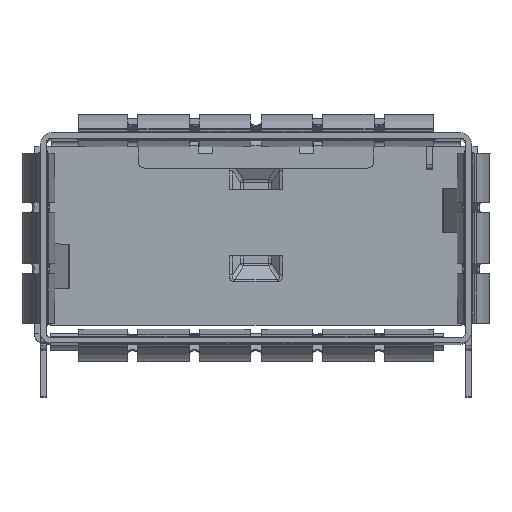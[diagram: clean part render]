
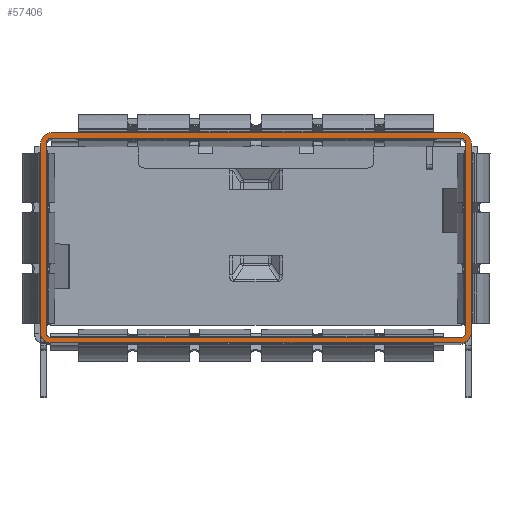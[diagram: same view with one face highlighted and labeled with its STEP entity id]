
A CAD part, top view. The second image highlights one B-rep face of the part: STEP entity #57406.
In plain terms, the highlighted planar face has unit normal (0, 0, 1).
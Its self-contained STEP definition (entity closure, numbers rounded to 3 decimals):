
#37 = AXIS2_PLACEMENT_3D ( 'NONE', #45351, #19337, #50804 ) ;
#287 = CARTESIAN_POINT ( 'NONE',  ( 9.125, -8.9, 48. ) ) ;
#1367 = AXIS2_PLACEMENT_3D ( 'NONE', #4854, #41297, #14080 ) ;
#1858 = CARTESIAN_POINT ( 'NONE',  ( 9.625, -8.9, 48. ) ) ;
#2196 = EDGE_CURVE ( 'NONE', #27542, #26078, #17969, .T. ) ;
#2359 = EDGE_CURVE ( 'NONE', #17183, #5559, #22906, .T. ) ;
#2428 = ORIENTED_EDGE ( 'NONE', *, *, #6236, .T. ) ;
#3853 = VERTEX_POINT ( 'NONE', #38428 ) ;
#4854 = CARTESIAN_POINT ( 'NONE',  ( 9.125, -0.5, 48. ) ) ;
#5559 = VERTEX_POINT ( 'NONE', #57170 ) ;
#6034 = VECTOR ( 'NONE', #27378, 1000. ) ;
#6236 = EDGE_CURVE ( 'NONE', #17183, #40401, #8928, .T. ) ;
#6918 = DIRECTION ( 'NONE',  ( 0., 1., 0. ) ) ;
#7238 = VECTOR ( 'NONE', #41199, 1000. ) ;
#8255 = CARTESIAN_POINT ( 'NONE',  ( -9.175, -9.15, 48. ) ) ;
#8294 = ORIENTED_EDGE ( 'NONE', *, *, #19710, .F. ) ;
#8928 = CIRCLE ( 'NONE', #46298, 0.45 ) ;
#9257 = VERTEX_POINT ( 'NONE', #56639 ) ;
#9402 = ORIENTED_EDGE ( 'NONE', *, *, #48870, .T. ) ;
#9570 = DIRECTION ( 'NONE',  ( 1., 0., 0. ) ) ;
#10160 = CARTESIAN_POINT ( 'NONE',  ( -9.625, -0.25, 48. ) ) ;
#10712 = VERTEX_POINT ( 'NONE', #15838 ) ;
#10721 = ORIENTED_EDGE ( 'NONE', *, *, #52177, .F. ) ;
#10976 = CARTESIAN_POINT ( 'NONE',  ( -9.375, -0.5, 48. ) ) ;
#11026 = FACE_OUTER_BOUND ( 'NONE', #44446, .T. ) ;
#11152 = VECTOR ( 'NONE', #51347, 1000. ) ;
#11313 = CARTESIAN_POINT ( 'NONE',  ( -9.625, 0., 48. ) ) ;
#11656 = CIRCLE ( 'NONE', #47904, 0.5 ) ;
#12084 = VECTOR ( 'NONE', #31171, 1000. ) ;
#12829 = ORIENTED_EDGE ( 'NONE', *, *, #49172, .T. ) ;
#13798 = CARTESIAN_POINT ( 'NONE',  ( -9.588, -9.13, 48. ) ) ;
#14080 = DIRECTION ( 'NONE',  ( 1., 0., 0. ) ) ;
#14172 = CARTESIAN_POINT ( 'NONE',  ( -9.125, -0.5, 48. ) ) ;
#14351 = CARTESIAN_POINT ( 'NONE',  ( 9.125, -0.5, 48. ) ) ;
#14672 = ORIENTED_EDGE ( 'NONE', *, *, #27754, .T. ) ;
#15684 = VERTEX_POINT ( 'NONE', #37890 ) ;
#15703 = CARTESIAN_POINT ( 'NONE',  ( -9.125, -0.25, 48. ) ) ;
#15838 = CARTESIAN_POINT ( 'NONE',  ( 9.375, -0.5, 48. ) ) ;
#16184 = CIRCLE ( 'NONE', #39861, 0.5 ) ;
#16540 = EDGE_CURVE ( 'NONE', #10712, #27542, #45712, .T. ) ;
#17073 = AXIS2_PLACEMENT_3D ( 'NONE', #287, #19101, #18716 ) ;
#17096 = VERTEX_POINT ( 'NONE', #52847 ) ;
#17183 = VERTEX_POINT ( 'NONE', #13798 ) ;
#17969 = LINE ( 'NONE', #10160, #7238 ) ;
#18272 = DIRECTION ( 'NONE',  ( 0., 0., 1. ) ) ;
#18636 = DIRECTION ( 'NONE',  ( 1., 0., 0. ) ) ;
#18707 = AXIS2_PLACEMENT_3D ( 'NONE', #33373, #50497, #18636 ) ;
#18716 = DIRECTION ( 'NONE',  ( 1., 0., 0. ) ) ;
#19101 = DIRECTION ( 'NONE',  ( 0., 0., 1. ) ) ;
#19106 = DIRECTION ( 'NONE',  ( 0., 0., 1. ) ) ;
#19337 = DIRECTION ( 'NONE',  ( 0., 0., 1. ) ) ;
#19493 = CARTESIAN_POINT ( 'NONE',  ( -9.125, -0.5, 48. ) ) ;
#19710 = EDGE_CURVE ( 'NONE', #26078, #52769, #42608, .T. ) ;
#19869 = LINE ( 'NONE', #49369, #42670 ) ;
#20808 = LINE ( 'NONE', #38739, #55708 ) ;
#22906 = LINE ( 'NONE', #29677, #56366 ) ;
#23183 = PLANE ( 'NONE',  #18707 ) ;
#23236 = CARTESIAN_POINT ( 'NONE',  ( 9.125, -9.4, 48. ) ) ;
#23426 = ORIENTED_EDGE ( 'NONE', *, *, #27998, .T. ) ;
#23462 = CARTESIAN_POINT ( 'NONE',  ( 9.625, -0.5, 48. ) ) ;
#23713 = CARTESIAN_POINT ( 'NONE',  ( -9.375, -8.95, 48. ) ) ;
#25243 = EDGE_CURVE ( 'NONE', #29904, #9257, #55167, .T. ) ;
#25927 = CARTESIAN_POINT ( 'NONE',  ( 9.375, -0.5, 48. ) ) ;
#26078 = VERTEX_POINT ( 'NONE', #15703 ) ;
#26139 = ORIENTED_EDGE ( 'NONE', *, *, #2359, .F. ) ;
#26144 = DIRECTION ( 'NONE',  ( 0., -1., 0. ) ) ;
#27378 = DIRECTION ( 'NONE',  ( -1., 0., 0. ) ) ;
#27533 = EDGE_CURVE ( 'NONE', #5559, #17096, #20808, .T. ) ;
#27542 = VERTEX_POINT ( 'NONE', #29597 ) ;
#27754 = EDGE_CURVE ( 'NONE', #43152, #15684, #45714, .T. ) ;
#27998 = EDGE_CURVE ( 'NONE', #10712, #9257, #53669, .T. ) ;
#28457 = DIRECTION ( 'NONE',  ( 1., 0., 0. ) ) ;
#29597 = CARTESIAN_POINT ( 'NONE',  ( 9.125, -0.25, 48. ) ) ;
#29677 = CARTESIAN_POINT ( 'NONE',  ( -9.375, -9.13, 48. ) ) ;
#29904 = VERTEX_POINT ( 'NONE', #52291 ) ;
#31171 = DIRECTION ( 'NONE',  ( -1., 0., 0. ) ) ;
#31183 = EDGE_CURVE ( 'NONE', #29904, #54086, #39085, .T. ) ;
#32060 = CARTESIAN_POINT ( 'NONE',  ( -9.375, -0.564, 48. ) ) ;
#32645 = DIRECTION ( 'NONE',  ( 0., 0., 1. ) ) ;
#33306 = CARTESIAN_POINT ( 'NONE',  ( 9.125, -8.9, 48. ) ) ;
#33373 = CARTESIAN_POINT ( 'NONE',  ( -9.315, -4.71, 48. ) ) ;
#34076 = DIRECTION ( 'NONE',  ( 0., 0., 1. ) ) ;
#34479 = EDGE_CURVE ( 'NONE', #3853, #17096, #11656, .T. ) ;
#34489 = EDGE_LOOP ( 'NONE', ( #34950, #23426, #50120, #42585, #10721, #44819, #8294, #54849 ) ) ;
#34950 = ORIENTED_EDGE ( 'NONE', *, *, #16540, .F. ) ;
#36194 = AXIS2_PLACEMENT_3D ( 'NONE', #14172, #41403, #9570 ) ;
#36195 = ORIENTED_EDGE ( 'NONE', *, *, #27533, .F. ) ;
#36605 = FACE_BOUND ( 'NONE', #34489, .T. ) ;
#36636 = DIRECTION ( 'NONE',  ( 0., -1., 0. ) ) ;
#37369 = DIRECTION ( 'NONE',  ( -1., 0., 0. ) ) ;
#37669 = VERTEX_POINT ( 'NONE', #1858 ) ;
#37890 = CARTESIAN_POINT ( 'NONE',  ( 9.125, 0., 48. ) ) ;
#38428 = CARTESIAN_POINT ( 'NONE',  ( -9.125, 0., 48. ) ) ;
#38528 = CARTESIAN_POINT ( 'NONE',  ( -9.175, -9.4, 48. ) ) ;
#38739 = CARTESIAN_POINT ( 'NONE',  ( -9.625, -0.564, 48. ) ) ;
#39085 = LINE ( 'NONE', #8255, #12084 ) ;
#39861 = AXIS2_PLACEMENT_3D ( 'NONE', #33306, #32645, #45618 ) ;
#40070 = CARTESIAN_POINT ( 'NONE',  ( -9.175, -9.15, 48. ) ) ;
#40105 = VECTOR ( 'NONE', #26144, 1000. ) ;
#40401 = VERTEX_POINT ( 'NONE', #44485 ) ;
#41199 = DIRECTION ( 'NONE',  ( -1., 0., 0. ) ) ;
#41297 = DIRECTION ( 'NONE',  ( 0., 0., 1. ) ) ;
#41300 = EDGE_CURVE ( 'NONE', #43152, #37669, #19869, .T. ) ;
#41403 = DIRECTION ( 'NONE',  ( 0., 0., 1. ) ) ;
#41625 = AXIS2_PLACEMENT_3D ( 'NONE', #14351, #18272, #28457 ) ;
#42401 = ORIENTED_EDGE ( 'NONE', *, *, #34479, .T. ) ;
#42585 = ORIENTED_EDGE ( 'NONE', *, *, #31183, .T. ) ;
#42608 = CIRCLE ( 'NONE', #36194, 0.25 ) ;
#42670 = VECTOR ( 'NONE', #36636, 1000. ) ;
#43152 = VERTEX_POINT ( 'NONE', #23462 ) ;
#44446 = EDGE_LOOP ( 'NONE', ( #57362, #14672, #12829, #42401, #36195, #26139, #2428, #46302, #9402 ) ) ;
#44453 = VECTOR ( 'NONE', #47280, 1000. ) ;
#44485 = CARTESIAN_POINT ( 'NONE',  ( -9.175, -9.4, 48. ) ) ;
#44819 = ORIENTED_EDGE ( 'NONE', *, *, #45192, .T. ) ;
#45192 = EDGE_CURVE ( 'NONE', #51972, #52769, #56543, .T. ) ;
#45287 = CARTESIAN_POINT ( 'NONE',  ( -9.175, -8.95, 48. ) ) ;
#45351 = CARTESIAN_POINT ( 'NONE',  ( -9.175, -8.95, 48. ) ) ;
#45618 = DIRECTION ( 'NONE',  ( 0., -1., 0. ) ) ;
#45712 = CIRCLE ( 'NONE', #41625, 0.25 ) ;
#45714 = CIRCLE ( 'NONE', #1367, 0.5 ) ;
#46298 = AXIS2_PLACEMENT_3D ( 'NONE', #45287, #34076, #57573 ) ;
#46302 = ORIENTED_EDGE ( 'NONE', *, *, #57307, .F. ) ;
#47280 = DIRECTION ( 'NONE',  ( 0., 1., 0. ) ) ;
#47904 = AXIS2_PLACEMENT_3D ( 'NONE', #19493, #19106, #37369 ) ;
#48620 = CIRCLE ( 'NONE', #37, 0.2 ) ;
#48870 = EDGE_CURVE ( 'NONE', #50896, #37669, #16184, .T. ) ;
#49172 = EDGE_CURVE ( 'NONE', #15684, #3853, #58119, .T. ) ;
#49369 = CARTESIAN_POINT ( 'NONE',  ( 9.625, -0.5, 48. ) ) ;
#50120 = ORIENTED_EDGE ( 'NONE', *, *, #25243, .F. ) ;
#50497 = DIRECTION ( 'NONE',  ( 0., 0., 1. ) ) ;
#50804 = DIRECTION ( 'NONE',  ( 0., -1., 0. ) ) ;
#50896 = VERTEX_POINT ( 'NONE', #23236 ) ;
#51347 = DIRECTION ( 'NONE',  ( -1., 0., 0. ) ) ;
#51383 = DIRECTION ( 'NONE',  ( -1., 0., 0. ) ) ;
#51972 = VERTEX_POINT ( 'NONE', #23713 ) ;
#52177 = EDGE_CURVE ( 'NONE', #51972, #54086, #48620, .T. ) ;
#52291 = CARTESIAN_POINT ( 'NONE',  ( 9.125, -9.15, 48. ) ) ;
#52769 = VERTEX_POINT ( 'NONE', #10976 ) ;
#52847 = CARTESIAN_POINT ( 'NONE',  ( -9.625, -0.5, 48. ) ) ;
#53669 = LINE ( 'NONE', #25927, #40105 ) ;
#54086 = VERTEX_POINT ( 'NONE', #40070 ) ;
#54473 = LINE ( 'NONE', #38528, #6034 ) ;
#54849 = ORIENTED_EDGE ( 'NONE', *, *, #2196, .F. ) ;
#55167 = CIRCLE ( 'NONE', #17073, 0.25 ) ;
#55708 = VECTOR ( 'NONE', #6918, 1000. ) ;
#56366 = VECTOR ( 'NONE', #51383, 1000. ) ;
#56543 = LINE ( 'NONE', #32060, #44453 ) ;
#56639 = CARTESIAN_POINT ( 'NONE',  ( 9.375, -8.9, 48. ) ) ;
#57170 = CARTESIAN_POINT ( 'NONE',  ( -9.625, -9.13, 48. ) ) ;
#57307 = EDGE_CURVE ( 'NONE', #50896, #40401, #54473, .T. ) ;
#57362 = ORIENTED_EDGE ( 'NONE', *, *, #41300, .F. ) ;
#57406 = ADVANCED_FACE ( 'NONE', ( #36605, #11026 ), #23183, .T. ) ;
#57573 = DIRECTION ( 'NONE',  ( 0., -1., 0. ) ) ;
#58119 = LINE ( 'NONE', #11313, #11152 ) ;
